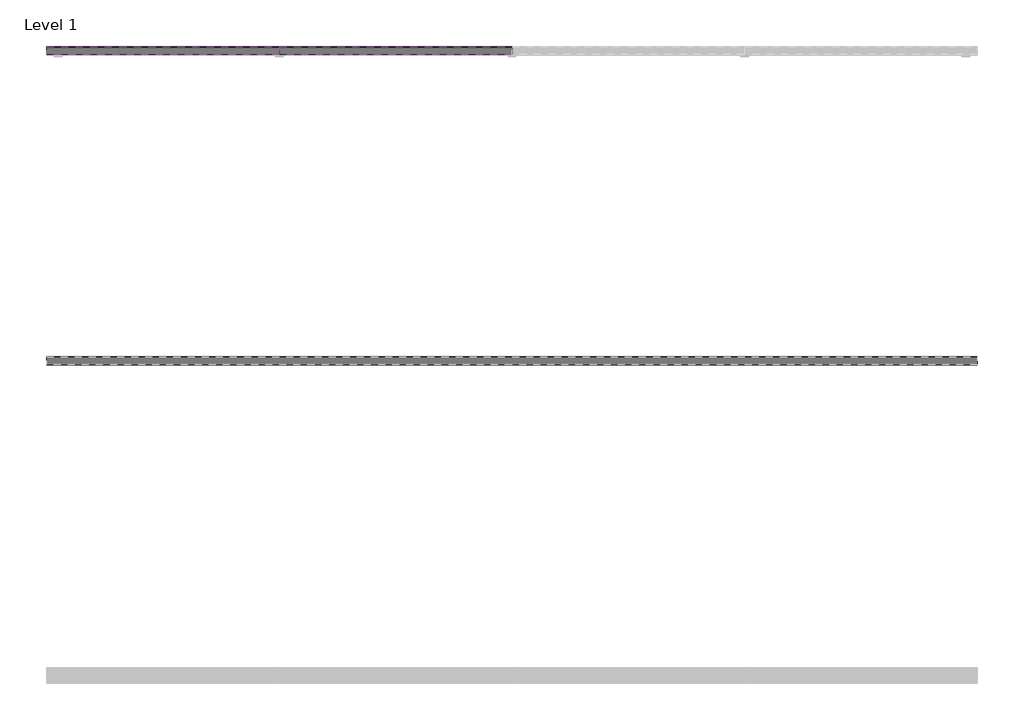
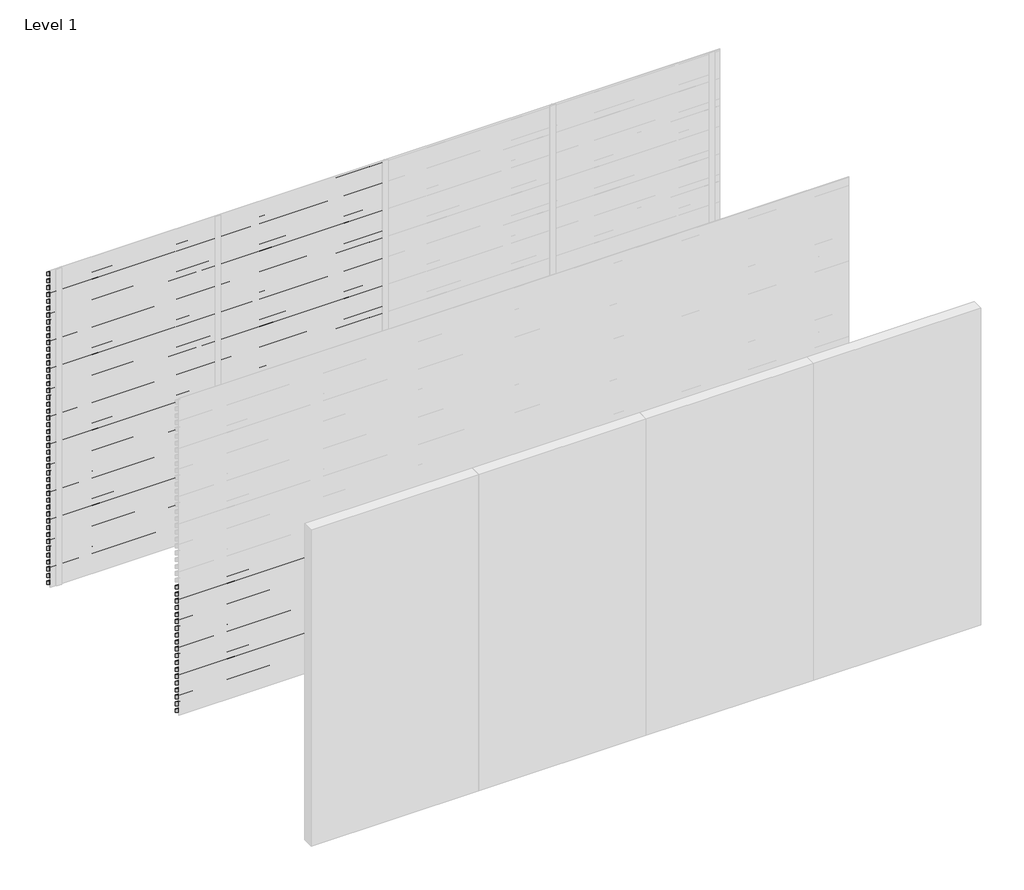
# One storey, part 9 of 10: 101 proxies.
"""IFC4 building model written with IfcOpenShell, lengths in millimetres."""

from ifc_helpers import new_model, si_unit, frame, origin, place, context, project, spatial, polyline, outline, extrude, element, save

model = new_model("IFC4")

# Units and contexts
model_context = context("Model", 3, world=origin())
ifc_project = project(units=[si_unit("LENGTHUNIT", "METRE", prefix="MILLI")], contexts=[model_context])

# Site, building, storey
site = spatial("IfcSite", under=ifc_project)
building = spatial("IfcBuilding", under=site)
storey = spatial("IfcBuildingStorey", under=building, Name="Level 1", Elevation=0.0)

# Proxies
placement = place(None, origin())
element("IfcBuildingElementProxy", 1, Name="Wall Sweeps", at=placement, inside=storey, context=model_context, shape_type="SweptSolid", body=[
    extrude(outline(polyline([(5.0, 2990.0), (5.0, 2981.2901632), (54.0, 2953.0), (54.0, 2918.0), (3.0, 2947.4448637), (3.0, 2990.0), (5.0, 2990.0)])), frame((0.0, 0.0, 0.0), z_axis=(1.0, 0.0, 0.0), x_axis=(0.0, 1.0, 0.0)), (0.0, 0.0, 1.0), 1500.0),
])
element("IfcBuildingElementProxy", 2, Name="Wall Sweeps", at=placement, inside=storey, context=model_context, shape_type="SweptSolid", body=[
    extrude(outline(polyline([(5.0, 2925.0), (5.0, 2916.2901632), (54.0, 2888.0), (54.0, 2853.0), (3.0, 2882.4448637), (3.0, 2925.0), (5.0, 2925.0)])), frame((0.0, 0.0, 0.0), z_axis=(1.0, 0.0, 0.0), x_axis=(0.0, 1.0, 0.0)), (0.0, 0.0, 1.0), 1500.0),
])
element("IfcBuildingElementProxy", 3, Name="Wall Sweeps", at=placement, inside=storey, context=model_context, shape_type="SweptSolid", body=[
    extrude(outline(polyline([(5.0, 2860.0), (5.0, 2851.2901632), (54.0, 2823.0), (54.0, 2788.0), (3.0, 2817.4448637), (3.0, 2860.0), (5.0, 2860.0)])), frame((0.0, 0.0, 0.0), z_axis=(1.0, 0.0, 0.0), x_axis=(0.0, 1.0, 0.0)), (0.0, 0.0, 1.0), 1500.0),
])
element("IfcBuildingElementProxy", 4, Name="Wall Sweeps", at=placement, inside=storey, context=model_context, shape_type="SweptSolid", body=[
    extrude(outline(polyline([(5.0, 2795.0), (5.0, 2786.2901632), (54.0, 2758.0), (54.0, 2723.0), (3.0, 2752.4448637), (3.0, 2795.0), (5.0, 2795.0)])), frame((0.0, 0.0, 0.0), z_axis=(1.0, 0.0, 0.0), x_axis=(0.0, 1.0, 0.0)), (0.0, 0.0, 1.0), 1500.0),
])
element("IfcBuildingElementProxy", 5, Name="Wall Sweeps", at=placement, inside=storey, context=model_context, shape_type="SweptSolid", body=[
    extrude(outline(polyline([(5.0, 2730.0), (5.0, 2721.2901632), (54.0, 2693.0), (54.0, 2658.0), (3.0, 2687.4448637), (3.0, 2730.0), (5.0, 2730.0)])), frame((0.0, 0.0, 0.0), z_axis=(1.0, 0.0, 0.0), x_axis=(0.0, 1.0, 0.0)), (0.0, 0.0, 1.0), 1500.0),
])
element("IfcBuildingElementProxy", 6, Name="Wall Sweeps", at=placement, inside=storey, context=model_context, shape_type="SweptSolid", body=[
    extrude(outline(polyline([(5.0, 2665.0), (5.0, 2656.2901632), (54.0, 2628.0), (54.0, 2593.0), (3.0, 2622.4448637), (3.0, 2665.0), (5.0, 2665.0)])), frame((0.0, 0.0, 0.0), z_axis=(1.0, 0.0, 0.0), x_axis=(0.0, 1.0, 0.0)), (0.0, 0.0, 1.0), 1500.0),
])
element("IfcBuildingElementProxy", 7, Name="Wall Sweeps", at=placement, inside=storey, context=model_context, shape_type="SweptSolid", body=[
    extrude(outline(polyline([(5.0, 2600.0), (5.0, 2591.2901632), (54.0, 2563.0), (54.0, 2528.0), (3.0, 2557.4448637), (3.0, 2600.0), (5.0, 2600.0)])), frame((0.0, 0.0, 0.0), z_axis=(1.0, 0.0, 0.0), x_axis=(0.0, 1.0, 0.0)), (0.0, 0.0, 1.0), 1500.0),
])
element("IfcBuildingElementProxy", 8, Name="Wall Sweeps", at=placement, inside=storey, context=model_context, shape_type="SweptSolid", body=[
    extrude(outline(polyline([(5.0, 2535.0), (5.0, 2526.2901632), (54.0, 2498.0), (54.0, 2463.0), (3.0, 2492.4448637), (3.0, 2535.0), (5.0, 2535.0)])), frame((0.0, 0.0, 0.0), z_axis=(1.0, 0.0, 0.0), x_axis=(0.0, 1.0, 0.0)), (0.0, 0.0, 1.0), 1500.0),
])
element("IfcBuildingElementProxy", 9, Name="Wall Sweeps", at=placement, inside=storey, context=model_context, shape_type="SweptSolid", body=[
    extrude(outline(polyline([(5.0, 2470.0), (5.0, 2461.2901632), (54.0, 2433.0), (54.0, 2398.0), (3.0, 2427.4448637), (3.0, 2470.0), (5.0, 2470.0)])), frame((0.0, 0.0, 0.0), z_axis=(1.0, 0.0, 0.0), x_axis=(0.0, 1.0, 0.0)), (0.0, 0.0, 1.0), 1500.0),
])
element("IfcBuildingElementProxy", 10, Name="Wall Sweeps", at=placement, inside=storey, context=model_context, shape_type="SweptSolid", body=[
    extrude(outline(polyline([(5.0, 2405.0), (5.0, 2396.2901632), (54.0, 2368.0), (54.0, 2333.0), (3.0, 2362.4448637), (3.0, 2405.0), (5.0, 2405.0)])), frame((0.0, 0.0, 0.0), z_axis=(1.0, 0.0, 0.0), x_axis=(0.0, 1.0, 0.0)), (0.0, 0.0, 1.0), 1500.0),
])
element("IfcBuildingElementProxy", 11, Name="Wall Sweeps", at=placement, inside=storey, context=model_context, shape_type="SweptSolid", body=[
    extrude(outline(polyline([(5.0, 2340.0), (5.0, 2331.2901632), (54.0, 2303.0), (54.0, 2268.0), (3.0, 2297.4448637), (3.0, 2340.0), (5.0, 2340.0)])), frame((0.0, 0.0, 0.0), z_axis=(1.0, 0.0, 0.0), x_axis=(0.0, 1.0, 0.0)), (0.0, 0.0, 1.0), 1500.0),
])
element("IfcBuildingElementProxy", 12, Name="Wall Sweeps", at=placement, inside=storey, context=model_context, shape_type="SweptSolid", body=[
    extrude(outline(polyline([(5.0, 2275.0), (5.0, 2266.2901632), (54.0, 2238.0), (54.0, 2203.0), (3.0, 2232.4448637), (3.0, 2275.0), (5.0, 2275.0)])), frame((0.0, 0.0, 0.0), z_axis=(1.0, 0.0, 0.0), x_axis=(0.0, 1.0, 0.0)), (0.0, 0.0, 1.0), 1500.0),
])
element("IfcBuildingElementProxy", 13, Name="Wall Sweeps", at=placement, inside=storey, context=model_context, shape_type="SweptSolid", body=[
    extrude(outline(polyline([(5.0, 2210.0), (5.0, 2201.2901632), (54.0, 2173.0), (54.0, 2138.0), (3.0, 2167.4448637), (3.0, 2210.0), (5.0, 2210.0)])), frame((0.0, 0.0, 0.0), z_axis=(1.0, 0.0, 0.0), x_axis=(0.0, 1.0, 0.0)), (0.0, 0.0, 1.0), 1500.0),
])
element("IfcBuildingElementProxy", 14, Name="Wall Sweeps", at=placement, inside=storey, context=model_context, shape_type="SweptSolid", body=[
    extrude(outline(polyline([(5.0, 2145.0), (5.0, 2136.2901632), (54.0, 2108.0), (54.0, 2073.0), (3.0, 2102.4448637), (3.0, 2145.0), (5.0, 2145.0)])), frame((0.0, 0.0, 0.0), z_axis=(1.0, 0.0, 0.0), x_axis=(0.0, 1.0, 0.0)), (0.0, 0.0, 1.0), 1500.0),
])
element("IfcBuildingElementProxy", 15, Name="Wall Sweeps", at=placement, inside=storey, context=model_context, shape_type="SweptSolid", body=[
    extrude(outline(polyline([(5.0, 2080.0), (5.0, 2071.2901632), (54.0, 2043.0), (54.0, 2008.0), (3.0, 2037.4448637), (3.0, 2080.0), (5.0, 2080.0)])), frame((0.0, 0.0, 0.0), z_axis=(1.0, 0.0, 0.0), x_axis=(0.0, 1.0, 0.0)), (0.0, 0.0, 1.0), 1500.0),
])
element("IfcBuildingElementProxy", 16, Name="Wall Sweeps", at=placement, inside=storey, context=model_context, shape_type="SweptSolid", body=[
    extrude(outline(polyline([(5.0, 2015.0), (5.0, 2006.2901632), (54.0, 1978.0), (54.0, 1943.0), (3.0, 1972.4448637), (3.0, 2015.0), (5.0, 2015.0)])), frame((0.0, 0.0, 0.0), z_axis=(1.0, 0.0, 0.0), x_axis=(0.0, 1.0, 0.0)), (0.0, 0.0, 1.0), 1500.0),
])
element("IfcBuildingElementProxy", 17, Name="Wall Sweeps", at=placement, inside=storey, context=model_context, shape_type="SweptSolid", body=[
    extrude(outline(polyline([(5.0, 1950.0), (5.0, 1941.2901632), (54.0, 1913.0), (54.0, 1878.0), (3.0, 1907.4448637), (3.0, 1950.0), (5.0, 1950.0)])), frame((0.0, 0.0, 0.0), z_axis=(1.0, 0.0, 0.0), x_axis=(0.0, 1.0, 0.0)), (0.0, 0.0, 1.0), 1500.0),
])
element("IfcBuildingElementProxy", 18, Name="Wall Sweeps", at=placement, inside=storey, context=model_context, shape_type="SweptSolid", body=[
    extrude(outline(polyline([(5.0, 1885.0), (5.0, 1876.2901632), (54.0, 1848.0), (54.0, 1813.0), (3.0, 1842.4448637), (3.0, 1885.0), (5.0, 1885.0)])), frame((0.0, 0.0, 0.0), z_axis=(1.0, 0.0, 0.0), x_axis=(0.0, 1.0, 0.0)), (0.0, 0.0, 1.0), 1500.0),
])
element("IfcBuildingElementProxy", 19, Name="Wall Sweeps", at=placement, inside=storey, context=model_context, shape_type="SweptSolid", body=[
    extrude(outline(polyline([(5.0, 1820.0), (5.0, 1811.2901632), (54.0, 1783.0), (54.0, 1748.0), (3.0, 1777.4448637), (3.0, 1820.0), (5.0, 1820.0)])), frame((0.0, 0.0, 0.0), z_axis=(1.0, 0.0, 0.0), x_axis=(0.0, 1.0, 0.0)), (0.0, 0.0, 1.0), 1500.0),
])
element("IfcBuildingElementProxy", 20, Name="Wall Sweeps", at=placement, inside=storey, context=model_context, shape_type="SweptSolid", body=[
    extrude(outline(polyline([(5.0, 1755.0), (5.0, 1746.2901632), (54.0, 1718.0), (54.0, 1683.0), (3.0, 1712.4448637), (3.0, 1755.0), (5.0, 1755.0)])), frame((0.0, 0.0, 0.0), z_axis=(1.0, 0.0, 0.0), x_axis=(0.0, 1.0, 0.0)), (0.0, 0.0, 1.0), 1500.0),
])
element("IfcBuildingElementProxy", 21, Name="Wall Sweeps", at=placement, inside=storey, context=model_context, shape_type="SweptSolid", body=[
    extrude(outline(polyline([(5.0, 1690.0), (5.0, 1681.2901632), (54.0, 1653.0), (54.0, 1618.0), (3.0, 1647.4448637), (3.0, 1690.0), (5.0, 1690.0)])), frame((0.0, 0.0, 0.0), z_axis=(1.0, 0.0, 0.0), x_axis=(0.0, 1.0, 0.0)), (0.0, 0.0, 1.0), 1500.0),
])
element("IfcBuildingElementProxy", 22, Name="Wall Sweeps", at=placement, inside=storey, context=model_context, shape_type="SweptSolid", body=[
    extrude(outline(polyline([(5.0, 1625.0), (5.0, 1616.2901632), (54.0, 1588.0), (54.0, 1553.0), (3.0, 1582.4448637), (3.0, 1625.0), (5.0, 1625.0)])), frame((0.0, 0.0, 0.0), z_axis=(1.0, 0.0, 0.0), x_axis=(0.0, 1.0, 0.0)), (0.0, 0.0, 1.0), 1500.0),
])
element("IfcBuildingElementProxy", 23, Name="Wall Sweeps", at=placement, inside=storey, context=model_context, shape_type="SweptSolid", body=[
    extrude(outline(polyline([(5.0, 1560.0), (5.0, 1551.2901632), (54.0, 1523.0), (54.0, 1488.0), (3.0, 1517.4448637), (3.0, 1560.0), (5.0, 1560.0)])), frame((0.0, 0.0, 0.0), z_axis=(1.0, 0.0, 0.0), x_axis=(0.0, 1.0, 0.0)), (0.0, 0.0, 1.0), 1500.0),
])
element("IfcBuildingElementProxy", 24, Name="Wall Sweeps", at=placement, inside=storey, context=model_context, shape_type="SweptSolid", body=[
    extrude(outline(polyline([(5.0, 1495.0), (5.0, 1486.2901632), (54.0, 1458.0), (54.0, 1423.0), (3.0, 1452.4448637), (3.0, 1495.0), (5.0, 1495.0)])), frame((0.0, 0.0, 0.0), z_axis=(1.0, 0.0, 0.0), x_axis=(0.0, 1.0, 0.0)), (0.0, 0.0, 1.0), 1500.0),
])
element("IfcBuildingElementProxy", 25, Name="Wall Sweeps", at=placement, inside=storey, context=model_context, shape_type="SweptSolid", body=[
    extrude(outline(polyline([(5.0, 1430.0), (5.0, 1421.2901632), (54.0, 1393.0), (54.0, 1358.0), (3.0, 1387.4448637), (3.0, 1430.0), (5.0, 1430.0)])), frame((0.0, 0.0, 0.0), z_axis=(1.0, 0.0, 0.0), x_axis=(0.0, 1.0, 0.0)), (0.0, 0.0, 1.0), 1500.0),
])
element("IfcBuildingElementProxy", 26, Name="Wall Sweeps", at=placement, inside=storey, context=model_context, shape_type="SweptSolid", body=[
    extrude(outline(polyline([(5.0, 1365.0), (5.0, 1356.2901632), (54.0, 1328.0), (54.0, 1293.0), (3.0, 1322.4448637), (3.0, 1365.0), (5.0, 1365.0)])), frame((0.0, 0.0, 0.0), z_axis=(1.0, 0.0, 0.0), x_axis=(0.0, 1.0, 0.0)), (0.0, 0.0, 1.0), 1500.0),
])
element("IfcBuildingElementProxy", 27, Name="Wall Sweeps", at=placement, inside=storey, context=model_context, shape_type="SweptSolid", body=[
    extrude(outline(polyline([(5.0, 1300.0), (5.0, 1291.2901632), (54.0, 1263.0), (54.0, 1228.0), (3.0, 1257.4448637), (3.0, 1300.0), (5.0, 1300.0)])), frame((0.0, 0.0, 0.0), z_axis=(1.0, 0.0, 0.0), x_axis=(0.0, 1.0, 0.0)), (0.0, 0.0, 1.0), 1500.0),
])
element("IfcBuildingElementProxy", 28, Name="Wall Sweeps", at=placement, inside=storey, context=model_context, shape_type="SweptSolid", body=[
    extrude(outline(polyline([(5.0, 1235.0), (5.0, 1226.2901632), (54.0, 1198.0), (54.0, 1163.0), (3.0, 1192.4448637), (3.0, 1235.0), (5.0, 1235.0)])), frame((0.0, 0.0, 0.0), z_axis=(1.0, 0.0, 0.0), x_axis=(0.0, 1.0, 0.0)), (0.0, 0.0, 1.0), 1500.0),
])
element("IfcBuildingElementProxy", 29, Name="Wall Sweeps", at=placement, inside=storey, context=model_context, shape_type="SweptSolid", body=[
    extrude(outline(polyline([(5.0, 1170.0), (5.0, 1161.2901632), (54.0, 1133.0), (54.0, 1098.0), (3.0, 1127.4448637), (3.0, 1170.0), (5.0, 1170.0)])), frame((0.0, 0.0, 0.0), z_axis=(1.0, 0.0, 0.0), x_axis=(0.0, 1.0, 0.0)), (0.0, 0.0, 1.0), 1500.0),
])
element("IfcBuildingElementProxy", 30, Name="Wall Sweeps", at=placement, inside=storey, context=model_context, shape_type="SweptSolid", body=[
    extrude(outline(polyline([(5.0, 1105.0), (5.0, 1096.2901632), (54.0, 1068.0), (54.0, 1033.0), (3.0, 1062.4448637), (3.0, 1105.0), (5.0, 1105.0)])), frame((0.0, 0.0, 0.0), z_axis=(1.0, 0.0, 0.0), x_axis=(0.0, 1.0, 0.0)), (0.0, 0.0, 1.0), 1500.0),
])
element("IfcBuildingElementProxy", 31, Name="Wall Sweeps", at=placement, inside=storey, context=model_context, shape_type="SweptSolid", body=[
    extrude(outline(polyline([(5.0, 1040.0), (5.0, 1031.2901632), (54.0, 1003.0), (54.0, 968.0), (3.0, 997.4448637), (3.0, 1040.0), (5.0, 1040.0)])), frame((0.0, 0.0, 0.0), z_axis=(1.0, 0.0, 0.0), x_axis=(0.0, 1.0, 0.0)), (0.0, 0.0, 1.0), 1500.0),
])
element("IfcBuildingElementProxy", 32, Name="Wall Sweeps", at=placement, inside=storey, context=model_context, shape_type="SweptSolid", body=[
    extrude(outline(polyline([(5.0, 975.0), (5.0, 966.2901632), (54.0, 938.0), (54.0, 903.0), (3.0, 932.4448637), (3.0, 975.0), (5.0, 975.0)])), frame((0.0, 0.0, 0.0), z_axis=(1.0, 0.0, 0.0), x_axis=(0.0, 1.0, 0.0)), (0.0, 0.0, 1.0), 1500.0),
])
element("IfcBuildingElementProxy", 33, Name="Wall Sweeps", at=placement, inside=storey, context=model_context, shape_type="SweptSolid", body=[
    extrude(outline(polyline([(5.0, 910.0), (5.0, 901.2901632), (54.0, 873.0), (54.0, 838.0), (3.0, 867.4448637), (3.0, 910.0), (5.0, 910.0)])), frame((0.0, 0.0, 0.0), z_axis=(1.0, 0.0, 0.0), x_axis=(0.0, 1.0, 0.0)), (0.0, 0.0, 1.0), 1500.0),
])
element("IfcBuildingElementProxy", 34, Name="Wall Sweeps", at=placement, inside=storey, context=model_context, shape_type="SweptSolid", body=[
    extrude(outline(polyline([(5.0, 845.0), (5.0, 836.2901632), (54.0, 808.0), (54.0, 773.0), (3.0, 802.4448637), (3.0, 845.0), (5.0, 845.0)])), frame((0.0, 0.0, 0.0), z_axis=(1.0, 0.0, 0.0), x_axis=(0.0, 1.0, 0.0)), (0.0, 0.0, 1.0), 1500.0),
])
element("IfcBuildingElementProxy", 35, Name="Wall Sweeps", at=placement, inside=storey, context=model_context, shape_type="SweptSolid", body=[
    extrude(outline(polyline([(5.0, 780.0), (5.0, 771.2901632), (54.0, 743.0), (54.0, 708.0), (3.0, 737.4448637), (3.0, 780.0), (5.0, 780.0)])), frame((0.0, 0.0, 0.0), z_axis=(1.0, 0.0, 0.0), x_axis=(0.0, 1.0, 0.0)), (0.0, 0.0, 1.0), 1500.0),
])
element("IfcBuildingElementProxy", 36, Name="Wall Sweeps", at=placement, inside=storey, context=model_context, shape_type="SweptSolid", body=[
    extrude(outline(polyline([(5.0, 715.0), (5.0, 706.2901632), (54.0, 678.0), (54.0, 643.0), (3.0, 672.4448637), (3.0, 715.0), (5.0, 715.0)])), frame((0.0, 0.0, 0.0), z_axis=(1.0, 0.0, 0.0), x_axis=(0.0, 1.0, 0.0)), (0.0, 0.0, 1.0), 1500.0),
])
element("IfcBuildingElementProxy", 37, Name="Wall Sweeps", at=placement, inside=storey, context=model_context, shape_type="SweptSolid", body=[
    extrude(outline(polyline([(5.0, 650.0), (5.0, 641.2901632), (54.0, 613.0), (54.0, 578.0), (3.0, 607.4448637), (3.0, 650.0), (5.0, 650.0)])), frame((0.0, 0.0, 0.0), z_axis=(1.0, 0.0, 0.0), x_axis=(0.0, 1.0, 0.0)), (0.0, 0.0, 1.0), 1500.0),
])
element("IfcBuildingElementProxy", 38, Name="Wall Sweeps", at=placement, inside=storey, context=model_context, shape_type="SweptSolid", body=[
    extrude(outline(polyline([(5.0, 585.0), (5.0, 576.2901632), (54.0, 548.0), (54.0, 513.0), (3.0, 542.4448637), (3.0, 585.0), (5.0, 585.0)])), frame((0.0, 0.0, 0.0), z_axis=(1.0, 0.0, 0.0), x_axis=(0.0, 1.0, 0.0)), (0.0, 0.0, 1.0), 1500.0),
])
element("IfcBuildingElementProxy", 39, Name="Wall Sweeps", at=placement, inside=storey, context=model_context, shape_type="SweptSolid", body=[
    extrude(outline(polyline([(5.0, 520.0), (5.0, 511.2901632), (54.0, 483.0), (54.0, 448.0), (3.0, 477.4448637), (3.0, 520.0), (5.0, 520.0)])), frame((0.0, 0.0, 0.0), z_axis=(1.0, 0.0, 0.0), x_axis=(0.0, 1.0, 0.0)), (0.0, 0.0, 1.0), 1500.0),
])
element("IfcBuildingElementProxy", 40, Name="Wall Sweeps", at=placement, inside=storey, context=model_context, shape_type="SweptSolid", body=[
    extrude(outline(polyline([(5.0, 455.0), (5.0, 446.2901632), (54.0, 418.0), (54.0, 383.0), (3.0, 412.4448637), (3.0, 455.0), (5.0, 455.0)])), frame((0.0, 0.0, 0.0), z_axis=(1.0, 0.0, 0.0), x_axis=(0.0, 1.0, 0.0)), (0.0, 0.0, 1.0), 1500.0),
])
element("IfcBuildingElementProxy", 41, Name="Wall Sweeps", at=placement, inside=storey, context=model_context, shape_type="SweptSolid", body=[
    extrude(outline(polyline([(5.0, 390.0), (5.0, 381.2901632), (54.0, 353.0), (54.0, 318.0), (3.0, 347.4448637), (3.0, 390.0), (5.0, 390.0)])), frame((0.0, 0.0, 0.0), z_axis=(1.0, 0.0, 0.0), x_axis=(0.0, 1.0, 0.0)), (0.0, 0.0, 1.0), 1500.0),
])
element("IfcBuildingElementProxy", 42, Name="Wall Sweeps", at=placement, inside=storey, context=model_context, shape_type="SweptSolid", body=[
    extrude(outline(polyline([(5.0, 325.0), (5.0, 316.2901632), (54.0, 288.0), (54.0, 253.0), (3.0, 282.4448637), (3.0, 325.0), (5.0, 325.0)])), frame((0.0, 0.0, 0.0), z_axis=(1.0, 0.0, 0.0), x_axis=(0.0, 1.0, 0.0)), (0.0, 0.0, 1.0), 1500.0),
])
element("IfcBuildingElementProxy", 43, Name="Wall Sweeps", at=placement, inside=storey, context=model_context, shape_type="SweptSolid", body=[
    extrude(outline(polyline([(5.0, 260.0), (5.0, 251.2901632), (54.0, 223.0), (54.0, 188.0), (3.0, 217.4448637), (3.0, 260.0), (5.0, 260.0)])), frame((0.0, 0.0, 0.0), z_axis=(1.0, 0.0, 0.0), x_axis=(0.0, 1.0, 0.0)), (0.0, 0.0, 1.0), 1500.0),
])
element("IfcBuildingElementProxy", 44, Name="Wall Sweeps", at=placement, inside=storey, context=model_context, shape_type="SweptSolid", body=[
    extrude(outline(polyline([(5.0, 195.0), (5.0, 186.2901632), (54.0, 158.0), (54.0, 123.0), (3.0, 152.4448637), (3.0, 195.0), (5.0, 195.0)])), frame((0.0, 0.0, 0.0), z_axis=(1.0, 0.0, 0.0), x_axis=(0.0, 1.0, 0.0)), (0.0, 0.0, 1.0), 1500.0),
])
element("IfcBuildingElementProxy", 45, Name="Wall Sweeps", at=placement, inside=storey, context=model_context, shape_type="SweptSolid", body=[
    extrude(outline(polyline([(5.0, 130.0), (5.0, 121.2901632), (54.0, 93.0), (54.0, 58.0), (3.0, 87.4448637), (3.0, 130.0), (5.0, 130.0)])), frame((0.0, 0.0, 0.0), z_axis=(1.0, 0.0, 0.0), x_axis=(0.0, 1.0, 0.0)), (0.0, 0.0, 1.0), 1500.0),
])
element("IfcBuildingElementProxy", 46, Name="Wall Sweeps", at=placement, inside=storey, context=model_context, shape_type="SweptSolid", body=[
    extrude(outline(polyline([(5.0, 65.0), (5.0, 56.2901632), (54.0, 28.0), (54.0, -7.0), (3.0, 22.4448637), (3.0, 65.0), (5.0, 65.0)])), frame((0.0, 0.0, 0.0), z_axis=(1.0, 0.0, 0.0), x_axis=(0.0, 1.0, 0.0)), (0.0, 0.0, 1.0), 1500.0),
])
element("IfcBuildingElementProxy", 47, Name="Wall Sweeps", at=placement, inside=storey, context=model_context, shape_type="SweptSolid", body=[
    extrude(outline(polyline([(5.0, 2990.0), (5.0, 2981.2901632), (54.0, 2953.0), (54.0, 2918.0), (3.0, 2947.4448637), (3.0, 2990.0), (5.0, 2990.0)])), frame((1500.0, 0.0, 0.0), z_axis=(1.0, 0.0, 0.0), x_axis=(0.0, 1.0, 0.0)), (0.0, 0.0, 1.0), 1500.0),
])
element("IfcBuildingElementProxy", 48, Name="Wall Sweeps", at=placement, inside=storey, context=model_context, shape_type="SweptSolid", body=[
    extrude(outline(polyline([(5.0, 2925.0), (5.0, 2916.2901632), (54.0, 2888.0), (54.0, 2853.0), (3.0, 2882.4448637), (3.0, 2925.0), (5.0, 2925.0)])), frame((1500.0, 0.0, 0.0), z_axis=(1.0, 0.0, 0.0), x_axis=(0.0, 1.0, 0.0)), (0.0, 0.0, 1.0), 1500.0),
])
element("IfcBuildingElementProxy", 49, Name="Wall Sweeps", at=placement, inside=storey, context=model_context, shape_type="SweptSolid", body=[
    extrude(outline(polyline([(5.0, 2860.0), (5.0, 2851.2901632), (54.0, 2823.0), (54.0, 2788.0), (3.0, 2817.4448637), (3.0, 2860.0), (5.0, 2860.0)])), frame((1500.0, 0.0, 0.0), z_axis=(1.0, 0.0, 0.0), x_axis=(0.0, 1.0, 0.0)), (0.0, 0.0, 1.0), 1500.0),
])
element("IfcBuildingElementProxy", 50, Name="Wall Sweeps", at=placement, inside=storey, context=model_context, shape_type="SweptSolid", body=[
    extrude(outline(polyline([(5.0, 2795.0), (5.0, 2786.2901632), (54.0, 2758.0), (54.0, 2723.0), (3.0, 2752.4448637), (3.0, 2795.0), (5.0, 2795.0)])), frame((1500.0, 0.0, 0.0), z_axis=(1.0, 0.0, 0.0), x_axis=(0.0, 1.0, 0.0)), (0.0, 0.0, 1.0), 1500.0),
])
element("IfcBuildingElementProxy", 51, Name="Wall Sweeps", at=placement, inside=storey, context=model_context, shape_type="SweptSolid", body=[
    extrude(outline(polyline([(5.0, 2730.0), (5.0, 2721.2901632), (54.0, 2693.0), (54.0, 2658.0), (3.0, 2687.4448637), (3.0, 2730.0), (5.0, 2730.0)])), frame((1500.0, 0.0, 0.0), z_axis=(1.0, 0.0, 0.0), x_axis=(0.0, 1.0, 0.0)), (0.0, 0.0, 1.0), 1500.0),
])
element("IfcBuildingElementProxy", 52, Name="Wall Sweeps", at=placement, inside=storey, context=model_context, shape_type="SweptSolid", body=[
    extrude(outline(polyline([(5.0, 2665.0), (5.0, 2656.2901632), (54.0, 2628.0), (54.0, 2593.0), (3.0, 2622.4448637), (3.0, 2665.0), (5.0, 2665.0)])), frame((1500.0, 0.0, 0.0), z_axis=(1.0, 0.0, 0.0), x_axis=(0.0, 1.0, 0.0)), (0.0, 0.0, 1.0), 1500.0),
])
element("IfcBuildingElementProxy", 53, Name="Wall Sweeps", at=placement, inside=storey, context=model_context, shape_type="SweptSolid", body=[
    extrude(outline(polyline([(5.0, 2600.0), (5.0, 2591.2901632), (54.0, 2563.0), (54.0, 2528.0), (3.0, 2557.4448637), (3.0, 2600.0), (5.0, 2600.0)])), frame((1500.0, 0.0, 0.0), z_axis=(1.0, 0.0, 0.0), x_axis=(0.0, 1.0, 0.0)), (0.0, 0.0, 1.0), 1500.0),
])
element("IfcBuildingElementProxy", 54, Name="Wall Sweeps", at=placement, inside=storey, context=model_context, shape_type="SweptSolid", body=[
    extrude(outline(polyline([(5.0, 2535.0), (5.0, 2526.2901632), (54.0, 2498.0), (54.0, 2463.0), (3.0, 2492.4448637), (3.0, 2535.0), (5.0, 2535.0)])), frame((1500.0, 0.0, 0.0), z_axis=(1.0, 0.0, 0.0), x_axis=(0.0, 1.0, 0.0)), (0.0, 0.0, 1.0), 1500.0),
])
element("IfcBuildingElementProxy", 55, Name="Wall Sweeps", at=placement, inside=storey, context=model_context, shape_type="SweptSolid", body=[
    extrude(outline(polyline([(5.0, 2470.0), (5.0, 2461.2901632), (54.0, 2433.0), (54.0, 2398.0), (3.0, 2427.4448637), (3.0, 2470.0), (5.0, 2470.0)])), frame((1500.0, 0.0, 0.0), z_axis=(1.0, 0.0, 0.0), x_axis=(0.0, 1.0, 0.0)), (0.0, 0.0, 1.0), 1500.0),
])
element("IfcBuildingElementProxy", 56, Name="Wall Sweeps", at=placement, inside=storey, context=model_context, shape_type="SweptSolid", body=[
    extrude(outline(polyline([(5.0, 2405.0), (5.0, 2396.2901632), (54.0, 2368.0), (54.0, 2333.0), (3.0, 2362.4448637), (3.0, 2405.0), (5.0, 2405.0)])), frame((1500.0, 0.0, 0.0), z_axis=(1.0, 0.0, 0.0), x_axis=(0.0, 1.0, 0.0)), (0.0, 0.0, 1.0), 1500.0),
])
element("IfcBuildingElementProxy", 57, Name="Wall Sweeps", at=placement, inside=storey, context=model_context, shape_type="SweptSolid", body=[
    extrude(outline(polyline([(5.0, 2340.0), (5.0, 2331.2901632), (54.0, 2303.0), (54.0, 2268.0), (3.0, 2297.4448637), (3.0, 2340.0), (5.0, 2340.0)])), frame((1500.0, 0.0, 0.0), z_axis=(1.0, 0.0, 0.0), x_axis=(0.0, 1.0, 0.0)), (0.0, 0.0, 1.0), 1500.0),
])
element("IfcBuildingElementProxy", 58, Name="Wall Sweeps", at=placement, inside=storey, context=model_context, shape_type="SweptSolid", body=[
    extrude(outline(polyline([(5.0, 2275.0), (5.0, 2266.2901632), (54.0, 2238.0), (54.0, 2203.0), (3.0, 2232.4448637), (3.0, 2275.0), (5.0, 2275.0)])), frame((1500.0, 0.0, 0.0), z_axis=(1.0, 0.0, 0.0), x_axis=(0.0, 1.0, 0.0)), (0.0, 0.0, 1.0), 1500.0),
])
element("IfcBuildingElementProxy", 59, Name="Wall Sweeps", at=placement, inside=storey, context=model_context, shape_type="SweptSolid", body=[
    extrude(outline(polyline([(5.0, 2210.0), (5.0, 2201.2901632), (54.0, 2173.0), (54.0, 2138.0), (3.0, 2167.4448637), (3.0, 2210.0), (5.0, 2210.0)])), frame((1500.0, 0.0, 0.0), z_axis=(1.0, 0.0, 0.0), x_axis=(0.0, 1.0, 0.0)), (0.0, 0.0, 1.0), 1500.0),
])
element("IfcBuildingElementProxy", 60, Name="Wall Sweeps", at=placement, inside=storey, context=model_context, shape_type="SweptSolid", body=[
    extrude(outline(polyline([(5.0, 2145.0), (5.0, 2136.2901632), (54.0, 2108.0), (54.0, 2073.0), (3.0, 2102.4448637), (3.0, 2145.0), (5.0, 2145.0)])), frame((1500.0, 0.0, 0.0), z_axis=(1.0, 0.0, 0.0), x_axis=(0.0, 1.0, 0.0)), (0.0, 0.0, 1.0), 1500.0),
])
element("IfcBuildingElementProxy", 61, Name="Wall Sweeps", at=placement, inside=storey, context=model_context, shape_type="SweptSolid", body=[
    extrude(outline(polyline([(5.0, 2080.0), (5.0, 2071.2901632), (54.0, 2043.0), (54.0, 2008.0), (3.0, 2037.4448637), (3.0, 2080.0), (5.0, 2080.0)])), frame((1500.0, 0.0, 0.0), z_axis=(1.0, 0.0, 0.0), x_axis=(0.0, 1.0, 0.0)), (0.0, 0.0, 1.0), 1500.0),
])
element("IfcBuildingElementProxy", 62, Name="Wall Sweeps", at=placement, inside=storey, context=model_context, shape_type="SweptSolid", body=[
    extrude(outline(polyline([(5.0, 2015.0), (5.0, 2006.2901632), (54.0, 1978.0), (54.0, 1943.0), (3.0, 1972.4448637), (3.0, 2015.0), (5.0, 2015.0)])), frame((1500.0, 0.0, 0.0), z_axis=(1.0, 0.0, 0.0), x_axis=(0.0, 1.0, 0.0)), (0.0, 0.0, 1.0), 1500.0),
])
element("IfcBuildingElementProxy", 63, Name="Wall Sweeps", at=placement, inside=storey, context=model_context, shape_type="SweptSolid", body=[
    extrude(outline(polyline([(5.0, 1950.0), (5.0, 1941.2901632), (54.0, 1913.0), (54.0, 1878.0), (3.0, 1907.4448637), (3.0, 1950.0), (5.0, 1950.0)])), frame((1500.0, 0.0, 0.0), z_axis=(1.0, 0.0, 0.0), x_axis=(0.0, 1.0, 0.0)), (0.0, 0.0, 1.0), 1500.0),
])
element("IfcBuildingElementProxy", 64, Name="Wall Sweeps", at=placement, inside=storey, context=model_context, shape_type="SweptSolid", body=[
    extrude(outline(polyline([(5.0, 1885.0), (5.0, 1876.2901632), (54.0, 1848.0), (54.0, 1813.0), (3.0, 1842.4448637), (3.0, 1885.0), (5.0, 1885.0)])), frame((1500.0, 0.0, 0.0), z_axis=(1.0, 0.0, 0.0), x_axis=(0.0, 1.0, 0.0)), (0.0, 0.0, 1.0), 1500.0),
])
element("IfcBuildingElementProxy", 65, Name="Wall Sweeps", at=placement, inside=storey, context=model_context, shape_type="SweptSolid", body=[
    extrude(outline(polyline([(5.0, 1820.0), (5.0, 1811.2901632), (54.0, 1783.0), (54.0, 1748.0), (3.0, 1777.4448637), (3.0, 1820.0), (5.0, 1820.0)])), frame((1500.0, 0.0, 0.0), z_axis=(1.0, 0.0, 0.0), x_axis=(0.0, 1.0, 0.0)), (0.0, 0.0, 1.0), 1500.0),
])
element("IfcBuildingElementProxy", 66, Name="Wall Sweeps", at=placement, inside=storey, context=model_context, shape_type="SweptSolid", body=[
    extrude(outline(polyline([(5.0, 1755.0), (5.0, 1746.2901632), (54.0, 1718.0), (54.0, 1683.0), (3.0, 1712.4448637), (3.0, 1755.0), (5.0, 1755.0)])), frame((1500.0, 0.0, 0.0), z_axis=(1.0, 0.0, 0.0), x_axis=(0.0, 1.0, 0.0)), (0.0, 0.0, 1.0), 1500.0),
])
element("IfcBuildingElementProxy", 67, Name="Wall Sweeps", at=placement, inside=storey, context=model_context, shape_type="SweptSolid", body=[
    extrude(outline(polyline([(5.0, 1690.0), (5.0, 1681.2901632), (54.0, 1653.0), (54.0, 1618.0), (3.0, 1647.4448637), (3.0, 1690.0), (5.0, 1690.0)])), frame((1500.0, 0.0, 0.0), z_axis=(1.0, 0.0, 0.0), x_axis=(0.0, 1.0, 0.0)), (0.0, 0.0, 1.0), 1500.0),
])
element("IfcBuildingElementProxy", 68, Name="Wall Sweeps", at=placement, inside=storey, context=model_context, shape_type="SweptSolid", body=[
    extrude(outline(polyline([(5.0, 1625.0), (5.0, 1616.2901632), (54.0, 1588.0), (54.0, 1553.0), (3.0, 1582.4448637), (3.0, 1625.0), (5.0, 1625.0)])), frame((1500.0, 0.0, 0.0), z_axis=(1.0, 0.0, 0.0), x_axis=(0.0, 1.0, 0.0)), (0.0, 0.0, 1.0), 1500.0),
])
element("IfcBuildingElementProxy", 69, Name="Wall Sweeps", at=placement, inside=storey, context=model_context, shape_type="SweptSolid", body=[
    extrude(outline(polyline([(5.0, 1560.0), (5.0, 1551.2901632), (54.0, 1523.0), (54.0, 1488.0), (3.0, 1517.4448637), (3.0, 1560.0), (5.0, 1560.0)])), frame((1500.0, 0.0, 0.0), z_axis=(1.0, 0.0, 0.0), x_axis=(0.0, 1.0, 0.0)), (0.0, 0.0, 1.0), 1500.0),
])
element("IfcBuildingElementProxy", 70, Name="Wall Sweeps", at=placement, inside=storey, context=model_context, shape_type="SweptSolid", body=[
    extrude(outline(polyline([(5.0, 1495.0), (5.0, 1486.2901632), (54.0, 1458.0), (54.0, 1423.0), (3.0, 1452.4448637), (3.0, 1495.0), (5.0, 1495.0)])), frame((1500.0, 0.0, 0.0), z_axis=(1.0, 0.0, 0.0), x_axis=(0.0, 1.0, 0.0)), (0.0, 0.0, 1.0), 1500.0),
])
element("IfcBuildingElementProxy", 71, Name="Wall Sweeps", at=placement, inside=storey, context=model_context, shape_type="SweptSolid", body=[
    extrude(outline(polyline([(5.0, 1430.0), (5.0, 1421.2901632), (54.0, 1393.0), (54.0, 1358.0), (3.0, 1387.4448637), (3.0, 1430.0), (5.0, 1430.0)])), frame((1500.0, 0.0, 0.0), z_axis=(1.0, 0.0, 0.0), x_axis=(0.0, 1.0, 0.0)), (0.0, 0.0, 1.0), 1500.0),
])
element("IfcBuildingElementProxy", 72, Name="Wall Sweeps", at=placement, inside=storey, context=model_context, shape_type="SweptSolid", body=[
    extrude(outline(polyline([(5.0, 1365.0), (5.0, 1356.2901632), (54.0, 1328.0), (54.0, 1293.0), (3.0, 1322.4448637), (3.0, 1365.0), (5.0, 1365.0)])), frame((1500.0, 0.0, 0.0), z_axis=(1.0, 0.0, 0.0), x_axis=(0.0, 1.0, 0.0)), (0.0, 0.0, 1.0), 1500.0),
])
element("IfcBuildingElementProxy", 73, Name="Wall Sweeps", at=placement, inside=storey, context=model_context, shape_type="SweptSolid", body=[
    extrude(outline(polyline([(5.0, 1300.0), (5.0, 1291.2901632), (54.0, 1263.0), (54.0, 1228.0), (3.0, 1257.4448637), (3.0, 1300.0), (5.0, 1300.0)])), frame((1500.0, 0.0, 0.0), z_axis=(1.0, 0.0, 0.0), x_axis=(0.0, 1.0, 0.0)), (0.0, 0.0, 1.0), 1500.0),
])
element("IfcBuildingElementProxy", 74, Name="Wall Sweeps", at=placement, inside=storey, context=model_context, shape_type="SweptSolid", body=[
    extrude(outline(polyline([(5.0, 1235.0), (5.0, 1226.2901632), (54.0, 1198.0), (54.0, 1163.0), (3.0, 1192.4448637), (3.0, 1235.0), (5.0, 1235.0)])), frame((1500.0, 0.0, 0.0), z_axis=(1.0, 0.0, 0.0), x_axis=(0.0, 1.0, 0.0)), (0.0, 0.0, 1.0), 1500.0),
])
element("IfcBuildingElementProxy", 75, Name="Wall Sweeps", at=placement, inside=storey, context=model_context, shape_type="SweptSolid", body=[
    extrude(outline(polyline([(5.0, 1170.0), (5.0, 1161.2901632), (54.0, 1133.0), (54.0, 1098.0), (3.0, 1127.4448637), (3.0, 1170.0), (5.0, 1170.0)])), frame((1500.0, 0.0, 0.0), z_axis=(1.0, 0.0, 0.0), x_axis=(0.0, 1.0, 0.0)), (0.0, 0.0, 1.0), 1500.0),
])
element("IfcBuildingElementProxy", 76, Name="Wall Sweeps", at=placement, inside=storey, context=model_context, shape_type="SweptSolid", body=[
    extrude(outline(polyline([(5.0, 1105.0), (5.0, 1096.2901632), (54.0, 1068.0), (54.0, 1033.0), (3.0, 1062.4448637), (3.0, 1105.0), (5.0, 1105.0)])), frame((1500.0, 0.0, 0.0), z_axis=(1.0, 0.0, 0.0), x_axis=(0.0, 1.0, 0.0)), (0.0, 0.0, 1.0), 1500.0),
])
element("IfcBuildingElementProxy", 77, Name="Wall Sweeps", at=placement, inside=storey, context=model_context, shape_type="SweptSolid", body=[
    extrude(outline(polyline([(5.0, 1040.0), (5.0, 1031.2901632), (54.0, 1003.0), (54.0, 968.0), (3.0, 997.4448637), (3.0, 1040.0), (5.0, 1040.0)])), frame((1500.0, 0.0, 0.0), z_axis=(1.0, 0.0, 0.0), x_axis=(0.0, 1.0, 0.0)), (0.0, 0.0, 1.0), 1500.0),
])
element("IfcBuildingElementProxy", 78, Name="Wall Sweeps", at=placement, inside=storey, context=model_context, shape_type="SweptSolid", body=[
    extrude(outline(polyline([(5.0, 975.0), (5.0, 966.2901632), (54.0, 938.0), (54.0, 903.0), (3.0, 932.4448637), (3.0, 975.0), (5.0, 975.0)])), frame((1500.0, 0.0, 0.0), z_axis=(1.0, 0.0, 0.0), x_axis=(0.0, 1.0, 0.0)), (0.0, 0.0, 1.0), 1500.0),
])
element("IfcBuildingElementProxy", 79, Name="Wall Sweeps", at=placement, inside=storey, context=model_context, shape_type="SweptSolid", body=[
    extrude(outline(polyline([(5.0, 910.0), (5.0, 901.2901632), (54.0, 873.0), (54.0, 838.0), (3.0, 867.4448637), (3.0, 910.0), (5.0, 910.0)])), frame((1500.0, 0.0, 0.0), z_axis=(1.0, 0.0, 0.0), x_axis=(0.0, 1.0, 0.0)), (0.0, 0.0, 1.0), 1500.0),
])
element("IfcBuildingElementProxy", 80, Name="Wall Sweeps", at=placement, inside=storey, context=model_context, shape_type="SweptSolid", body=[
    extrude(outline(polyline([(5.0, 845.0), (5.0, 836.2901632), (54.0, 808.0), (54.0, 773.0), (3.0, 802.4448637), (3.0, 845.0), (5.0, 845.0)])), frame((1500.0, 0.0, 0.0), z_axis=(1.0, 0.0, 0.0), x_axis=(0.0, 1.0, 0.0)), (0.0, 0.0, 1.0), 1500.0),
])
element("IfcBuildingElementProxy", 81, Name="Wall Sweeps", at=placement, inside=storey, context=model_context, shape_type="SweptSolid", body=[
    extrude(outline(polyline([(5.0, 780.0), (5.0, 771.2901632), (54.0, 743.0), (54.0, 708.0), (3.0, 737.4448637), (3.0, 780.0), (5.0, 780.0)])), frame((1500.0, 0.0, 0.0), z_axis=(1.0, 0.0, 0.0), x_axis=(0.0, 1.0, 0.0)), (0.0, 0.0, 1.0), 1500.0),
])
element("IfcBuildingElementProxy", 82, Name="Wall Sweeps", at=placement, inside=storey, context=model_context, shape_type="SweptSolid", body=[
    extrude(outline(polyline([(5.0, 715.0), (5.0, 706.2901632), (54.0, 678.0), (54.0, 643.0), (3.0, 672.4448637), (3.0, 715.0), (5.0, 715.0)])), frame((1500.0, 0.0, 0.0), z_axis=(1.0, 0.0, 0.0), x_axis=(0.0, 1.0, 0.0)), (0.0, 0.0, 1.0), 1500.0),
])
element("IfcBuildingElementProxy", 83, Name="Wall Sweeps", at=placement, inside=storey, context=model_context, shape_type="SweptSolid", body=[
    extrude(outline(polyline([(-1995.0, 1235.0), (-1995.0, 1226.2901632), (-1946.0, 1198.0), (-1946.0, 1163.0), (-1997.0, 1192.4448637), (-1997.0, 1235.0), (-1995.0, 1235.0)])), frame((0.0, 0.0, 0.0), z_axis=(1.0, 0.0, 0.0), x_axis=(0.0, 1.0, 0.0)), (0.0, 0.0, 1.0), 6000.0),
])
element("IfcBuildingElementProxy", 84, Name="Wall Sweeps", at=placement, inside=storey, context=model_context, shape_type="SweptSolid", body=[
    extrude(outline(polyline([(-1995.0, 1170.0), (-1995.0, 1161.2901632), (-1946.0, 1133.0), (-1946.0, 1098.0), (-1997.0, 1127.4448637), (-1997.0, 1170.0), (-1995.0, 1170.0)])), frame((0.0, 0.0, 0.0), z_axis=(1.0, 0.0, 0.0), x_axis=(0.0, 1.0, 0.0)), (0.0, 0.0, 1.0), 6000.0),
])
element("IfcBuildingElementProxy", 85, Name="Wall Sweeps", at=placement, inside=storey, context=model_context, shape_type="SweptSolid", body=[
    extrude(outline(polyline([(-1995.0, 1105.0), (-1995.0, 1096.2901632), (-1946.0, 1068.0), (-1946.0, 1033.0), (-1997.0, 1062.4448637), (-1997.0, 1105.0), (-1995.0, 1105.0)])), frame((0.0, 0.0, 0.0), z_axis=(1.0, 0.0, 0.0), x_axis=(0.0, 1.0, 0.0)), (0.0, 0.0, 1.0), 6000.0),
])
element("IfcBuildingElementProxy", 86, Name="Wall Sweeps", at=placement, inside=storey, context=model_context, shape_type="SweptSolid", body=[
    extrude(outline(polyline([(-1995.0, 1040.0), (-1995.0, 1031.2901632), (-1946.0, 1003.0), (-1946.0, 968.0), (-1997.0, 997.4448637), (-1997.0, 1040.0), (-1995.0, 1040.0)])), frame((0.0, 0.0, 0.0), z_axis=(1.0, 0.0, 0.0), x_axis=(0.0, 1.0, 0.0)), (0.0, 0.0, 1.0), 6000.0),
])
element("IfcBuildingElementProxy", 87, Name="Wall Sweeps", at=placement, inside=storey, context=model_context, shape_type="SweptSolid", body=[
    extrude(outline(polyline([(-1995.0, 975.0), (-1995.0, 966.2901632), (-1946.0, 938.0), (-1946.0, 903.0), (-1997.0, 932.4448637), (-1997.0, 975.0), (-1995.0, 975.0)])), frame((0.0, 0.0, 0.0), z_axis=(1.0, 0.0, 0.0), x_axis=(0.0, 1.0, 0.0)), (0.0, 0.0, 1.0), 6000.0),
])
element("IfcBuildingElementProxy", 88, Name="Wall Sweeps", at=placement, inside=storey, context=model_context, shape_type="SweptSolid", body=[
    extrude(outline(polyline([(-1995.0, 910.0), (-1995.0, 901.2901632), (-1946.0, 873.0), (-1946.0, 838.0), (-1997.0, 867.4448637), (-1997.0, 910.0), (-1995.0, 910.0)])), frame((0.0, 0.0, 0.0), z_axis=(1.0, 0.0, 0.0), x_axis=(0.0, 1.0, 0.0)), (0.0, 0.0, 1.0), 6000.0),
])
element("IfcBuildingElementProxy", 89, Name="Wall Sweeps", at=placement, inside=storey, context=model_context, shape_type="SweptSolid", body=[
    extrude(outline(polyline([(-1995.0, 845.0), (-1995.0, 836.2901632), (-1946.0, 808.0), (-1946.0, 773.0), (-1997.0, 802.4448637), (-1997.0, 845.0), (-1995.0, 845.0)])), frame((0.0, 0.0, 0.0), z_axis=(1.0, 0.0, 0.0), x_axis=(0.0, 1.0, 0.0)), (0.0, 0.0, 1.0), 6000.0),
])
element("IfcBuildingElementProxy", 90, Name="Wall Sweeps", at=placement, inside=storey, context=model_context, shape_type="SweptSolid", body=[
    extrude(outline(polyline([(-1995.0, 780.0), (-1995.0, 771.2901632), (-1946.0, 743.0), (-1946.0, 708.0), (-1997.0, 737.4448637), (-1997.0, 780.0), (-1995.0, 780.0)])), frame((0.0, 0.0, 0.0), z_axis=(1.0, 0.0, 0.0), x_axis=(0.0, 1.0, 0.0)), (0.0, 0.0, 1.0), 6000.0),
])
element("IfcBuildingElementProxy", 91, Name="Wall Sweeps", at=placement, inside=storey, context=model_context, shape_type="SweptSolid", body=[
    extrude(outline(polyline([(-1995.0, 715.0), (-1995.0, 706.2901632), (-1946.0, 678.0), (-1946.0, 643.0), (-1997.0, 672.4448637), (-1997.0, 715.0), (-1995.0, 715.0)])), frame((0.0, 0.0, 0.0), z_axis=(1.0, 0.0, 0.0), x_axis=(0.0, 1.0, 0.0)), (0.0, 0.0, 1.0), 6000.0),
])
element("IfcBuildingElementProxy", 92, Name="Wall Sweeps", at=placement, inside=storey, context=model_context, shape_type="SweptSolid", body=[
    extrude(outline(polyline([(-1995.0, 650.0), (-1995.0, 641.2901632), (-1946.0, 613.0), (-1946.0, 578.0), (-1997.0, 607.4448637), (-1997.0, 650.0), (-1995.0, 650.0)])), frame((0.0, 0.0, 0.0), z_axis=(1.0, 0.0, 0.0), x_axis=(0.0, 1.0, 0.0)), (0.0, 0.0, 1.0), 6000.0),
])
element("IfcBuildingElementProxy", 93, Name="Wall Sweeps", at=placement, inside=storey, context=model_context, shape_type="SweptSolid", body=[
    extrude(outline(polyline([(-1995.0, 585.0), (-1995.0, 576.2901632), (-1946.0, 548.0), (-1946.0, 513.0), (-1997.0, 542.4448637), (-1997.0, 585.0), (-1995.0, 585.0)])), frame((0.0, 0.0, 0.0), z_axis=(1.0, 0.0, 0.0), x_axis=(0.0, 1.0, 0.0)), (0.0, 0.0, 1.0), 6000.0),
])
element("IfcBuildingElementProxy", 94, Name="Wall Sweeps", at=placement, inside=storey, context=model_context, shape_type="SweptSolid", body=[
    extrude(outline(polyline([(-1995.0, 520.0), (-1995.0, 511.2901632), (-1946.0, 483.0), (-1946.0, 448.0), (-1997.0, 477.4448637), (-1997.0, 520.0), (-1995.0, 520.0)])), frame((0.0, 0.0, 0.0), z_axis=(1.0, 0.0, 0.0), x_axis=(0.0, 1.0, 0.0)), (0.0, 0.0, 1.0), 6000.0),
])
element("IfcBuildingElementProxy", 95, Name="Wall Sweeps", at=placement, inside=storey, context=model_context, shape_type="SweptSolid", body=[
    extrude(outline(polyline([(-1995.0, 455.0), (-1995.0, 446.2901632), (-1946.0, 418.0), (-1946.0, 383.0), (-1997.0, 412.4448637), (-1997.0, 455.0), (-1995.0, 455.0)])), frame((0.0, 0.0, 0.0), z_axis=(1.0, 0.0, 0.0), x_axis=(0.0, 1.0, 0.0)), (0.0, 0.0, 1.0), 6000.0),
])
element("IfcBuildingElementProxy", 96, Name="Wall Sweeps", at=placement, inside=storey, context=model_context, shape_type="SweptSolid", body=[
    extrude(outline(polyline([(-1995.0, 390.0), (-1995.0, 381.2901632), (-1946.0, 353.0), (-1946.0, 318.0), (-1997.0, 347.4448637), (-1997.0, 390.0), (-1995.0, 390.0)])), frame((0.0, 0.0, 0.0), z_axis=(1.0, 0.0, 0.0), x_axis=(0.0, 1.0, 0.0)), (0.0, 0.0, 1.0), 6000.0),
])
element("IfcBuildingElementProxy", 97, Name="Wall Sweeps", at=placement, inside=storey, context=model_context, shape_type="SweptSolid", body=[
    extrude(outline(polyline([(-1995.0, 325.0), (-1995.0, 316.2901632), (-1946.0, 288.0), (-1946.0, 253.0), (-1997.0, 282.4448637), (-1997.0, 325.0), (-1995.0, 325.0)])), frame((0.0, 0.0, 0.0), z_axis=(1.0, 0.0, 0.0), x_axis=(0.0, 1.0, 0.0)), (0.0, 0.0, 1.0), 6000.0),
])
element("IfcBuildingElementProxy", 98, Name="Wall Sweeps", at=placement, inside=storey, context=model_context, shape_type="SweptSolid", body=[
    extrude(outline(polyline([(-1995.0, 260.0), (-1995.0, 251.2901632), (-1946.0, 223.0), (-1946.0, 188.0), (-1997.0, 217.4448637), (-1997.0, 260.0), (-1995.0, 260.0)])), frame((0.0, 0.0, 0.0), z_axis=(1.0, 0.0, 0.0), x_axis=(0.0, 1.0, 0.0)), (0.0, 0.0, 1.0), 6000.0),
])
element("IfcBuildingElementProxy", 99, Name="Wall Sweeps", at=placement, inside=storey, context=model_context, shape_type="SweptSolid", body=[
    extrude(outline(polyline([(-1995.0, 195.0), (-1995.0, 186.2901632), (-1946.0, 158.0), (-1946.0, 123.0), (-1997.0, 152.4448637), (-1997.0, 195.0), (-1995.0, 195.0)])), frame((0.0, 0.0, 0.0), z_axis=(1.0, 0.0, 0.0), x_axis=(0.0, 1.0, 0.0)), (0.0, 0.0, 1.0), 6000.0),
])
element("IfcBuildingElementProxy", 100, Name="Wall Sweeps", at=placement, inside=storey, context=model_context, shape_type="SweptSolid", body=[
    extrude(outline(polyline([(-1995.0, 130.0), (-1995.0, 121.2901632), (-1946.0, 93.0), (-1946.0, 58.0), (-1997.0, 87.4448637), (-1997.0, 130.0), (-1995.0, 130.0)])), frame((0.0, 0.0, 0.0), z_axis=(1.0, 0.0, 0.0), x_axis=(0.0, 1.0, 0.0)), (0.0, 0.0, 1.0), 6000.0),
])
element("IfcBuildingElementProxy", 101, Name="Wall Sweeps", at=placement, inside=storey, context=model_context, shape_type="SweptSolid", body=[
    extrude(outline(polyline([(-1995.0, 65.0), (-1995.0, 56.2901632), (-1946.0, 28.0), (-1946.0, -7.0), (-1997.0, 22.4448637), (-1997.0, 65.0), (-1995.0, 65.0)])), frame((0.0, 0.0, 0.0), z_axis=(1.0, 0.0, 0.0), x_axis=(0.0, 1.0, 0.0)), (0.0, 0.0, 1.0), 6000.0),
])

save(model, "model.ifc")
